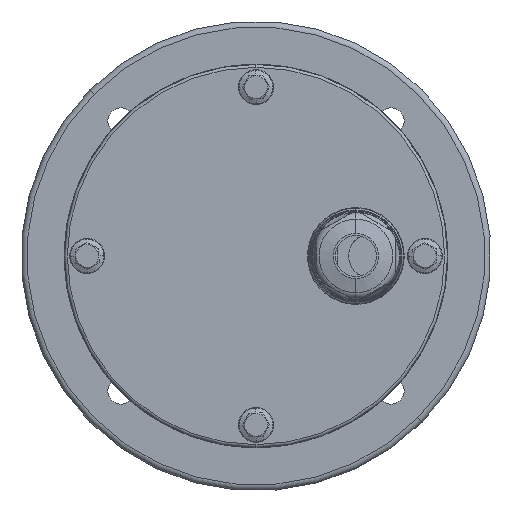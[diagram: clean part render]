
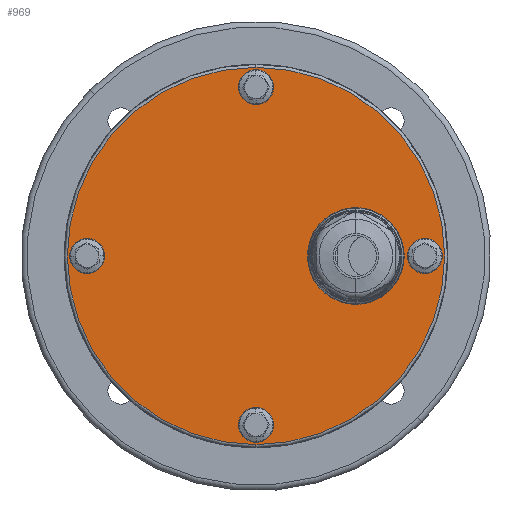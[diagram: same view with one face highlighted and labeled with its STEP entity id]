
A CAD part, left-side view. The second image highlights one B-rep face of the part: STEP entity #969.
In plain terms, the highlighted planar face has unit normal (-1, 0, 0).
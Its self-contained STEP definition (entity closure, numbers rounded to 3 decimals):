
#969=ADVANCED_FACE('',(#2261,#2262,#2263,#2264,#2265,#2266),#2267,.F.);
#2261=FACE_OUTER_BOUND('',#7372,.T.);
#2262=FACE_BOUND('',#7373,.T.);
#2263=FACE_BOUND('',#7374,.T.);
#2264=FACE_BOUND('',#7375,.T.);
#2265=FACE_BOUND('',#7376,.T.);
#2266=FACE_BOUND('',#7377,.T.);
#2267=PLANE('',#7378);
#7372=EDGE_LOOP('',(#11531,#11532));
#7373=EDGE_LOOP('',(#11533,#11534));
#7374=EDGE_LOOP('',(#11535,#11536));
#7375=EDGE_LOOP('',(#11537,#11538));
#7376=EDGE_LOOP('',(#11539,#11540));
#7377=EDGE_LOOP('',(#11541,#11542));
#7378=AXIS2_PLACEMENT_3D('',#11543,#11544,#11545);
#11531=ORIENTED_EDGE('',*,*,#13503,.T.);
#11532=ORIENTED_EDGE('',*,*,#13497,.T.);
#11533=ORIENTED_EDGE('',*,*,#13531,.F.);
#11534=ORIENTED_EDGE('',*,*,#13419,.F.);
#11535=ORIENTED_EDGE('',*,*,#13532,.F.);
#11536=ORIENTED_EDGE('',*,*,#13511,.F.);
#11537=ORIENTED_EDGE('',*,*,#13502,.F.);
#11538=ORIENTED_EDGE('',*,*,#13504,.F.);
#11539=ORIENTED_EDGE('',*,*,#13533,.F.);
#11540=ORIENTED_EDGE('',*,*,#13440,.F.);
#11541=ORIENTED_EDGE('',*,*,#13436,.T.);
#11542=ORIENTED_EDGE('',*,*,#13534,.T.);
#11543=CARTESIAN_POINT('',(-121.5,0.,0.));
#11544=DIRECTION('',(1.0,0.,0.));
#11545=DIRECTION('',(0.,1.0,0.));
#13419=EDGE_CURVE('',#15653,#15655,#15656,.T.);
#13436=EDGE_CURVE('',#15684,#15682,#15685,.T.);
#13440=EDGE_CURVE('',#15690,#15692,#15693,.T.);
#13497=EDGE_CURVE('',#15785,#15786,#15787,.T.);
#13502=EDGE_CURVE('',#15792,#15790,#15794,.T.);
#13503=EDGE_CURVE('',#15786,#15785,#15795,.T.);
#13504=EDGE_CURVE('',#15790,#15792,#15796,.T.);
#13511=EDGE_CURVE('',#15806,#15808,#15809,.T.);
#13531=EDGE_CURVE('',#15655,#15653,#15836,.T.);
#13532=EDGE_CURVE('',#15808,#15806,#15837,.T.);
#13533=EDGE_CURVE('',#15692,#15690,#15838,.T.);
#13534=EDGE_CURVE('',#15682,#15684,#15839,.T.);
#15653=VERTEX_POINT('',#22238);
#15655=VERTEX_POINT('',#22241);
#15656=CIRCLE('',#22242,4.75);
#15682=VERTEX_POINT('',#22271);
#15684=VERTEX_POINT('',#22274);
#15685=CIRCLE('',#22275,9.45);
#15690=VERTEX_POINT('',#22281);
#15692=VERTEX_POINT('',#22284);
#15693=CIRCLE('',#22285,4.75);
#15785=VERTEX_POINT('',#22395);
#15786=VERTEX_POINT('',#22396);
#15787=CIRCLE('',#22397,64.25);
#15790=VERTEX_POINT('',#22400);
#15792=VERTEX_POINT('',#22403);
#15794=CIRCLE('',#22406,4.75);
#15795=CIRCLE('',#22407,64.25);
#15796=CIRCLE('',#22408,4.75);
#15806=VERTEX_POINT('',#22420);
#15808=VERTEX_POINT('',#22423);
#15809=CIRCLE('',#22424,4.75);
#15836=CIRCLE('',#22454,4.75);
#15837=CIRCLE('',#22455,4.75);
#15838=CIRCLE('',#22456,4.75);
#15839=CIRCLE('',#22457,9.45);
#22238=CARTESIAN_POINT('',(-121.5,0.,-62.25));
#22241=CARTESIAN_POINT('',(-121.5,0.,-52.75));
#22242=AXIS2_PLACEMENT_3D('',#25053,#25054,#25055);
#22271=CARTESIAN_POINT('',(-121.5,-34.0,-9.45));
#22274=CARTESIAN_POINT('',(-121.5,-34.0,9.45));
#22275=AXIS2_PLACEMENT_3D('',#25096,#25097,#25098);
#22281=CARTESIAN_POINT('',(-121.5,57.5,-4.75));
#22284=CARTESIAN_POINT('',(-121.5,57.5,4.75));
#22285=AXIS2_PLACEMENT_3D('',#25104,#25105,#25106);
#22395=CARTESIAN_POINT('',(-121.5,0.,64.25));
#22396=CARTESIAN_POINT('',(-121.5,0.0,-64.25));
#22397=AXIS2_PLACEMENT_3D('',#25239,#25240,#25241);
#22400=CARTESIAN_POINT('',(-121.5,0.,52.75));
#22403=CARTESIAN_POINT('',(-121.5,0.,62.25));
#22406=AXIS2_PLACEMENT_3D('',#25250,#25251,#25252);
#22407=AXIS2_PLACEMENT_3D('',#25253,#25254,#25255);
#22408=AXIS2_PLACEMENT_3D('',#25256,#25257,#25258);
#22420=CARTESIAN_POINT('',(-121.5,-57.5,-4.75));
#22423=CARTESIAN_POINT('',(-121.5,-57.5,4.75));
#22424=AXIS2_PLACEMENT_3D('',#25271,#25272,#25273);
#22454=AXIS2_PLACEMENT_3D('',#25325,#25326,#25327);
#22455=AXIS2_PLACEMENT_3D('',#25328,#25329,#25330);
#22456=AXIS2_PLACEMENT_3D('',#25331,#25332,#25333);
#22457=AXIS2_PLACEMENT_3D('',#25334,#25335,#25336);
#25053=CARTESIAN_POINT('',(-121.5,0.,-57.5));
#25054=DIRECTION('',(-1.0,0.,0.));
#25055=DIRECTION('',(0.,1.0,0.));
#25096=CARTESIAN_POINT('',(-121.5,-34.0,0.));
#25097=DIRECTION('',(1.0,0.,0.0));
#25098=DIRECTION('',(0.0,0.0,-1.0));
#25104=CARTESIAN_POINT('',(-121.5,57.5,0.));
#25105=DIRECTION('',(-1.0,0.,0.0));
#25106=DIRECTION('',(0.0,0.0,1.0));
#25239=CARTESIAN_POINT('',(-121.5,0.,0.0));
#25240=DIRECTION('',(-1.0,0.,0.));
#25241=DIRECTION('',(0.,0.,-1.0));
#25250=CARTESIAN_POINT('',(-121.5,0.,57.5));
#25251=DIRECTION('',(-1.0,0.,0.));
#25252=DIRECTION('',(0.0,-1.0,0.));
#25253=CARTESIAN_POINT('',(-121.5,0.,0.0));
#25254=DIRECTION('',(-1.0,0.,0.));
#25255=DIRECTION('',(0.,0.,-1.0));
#25256=CARTESIAN_POINT('',(-121.5,0.,57.5));
#25257=DIRECTION('',(-1.0,0.,0.));
#25258=DIRECTION('',(0.0,-1.0,0.));
#25271=CARTESIAN_POINT('',(-121.5,-57.5,0.));
#25272=DIRECTION('',(-1.0,0.,-0.0));
#25273=DIRECTION('',(0.0,0.0,-1.0));
#25325=CARTESIAN_POINT('',(-121.5,0.,-57.5));
#25326=DIRECTION('',(-1.0,0.,0.));
#25327=DIRECTION('',(0.,1.0,0.));
#25328=CARTESIAN_POINT('',(-121.5,-57.5,0.));
#25329=DIRECTION('',(-1.0,0.,-0.0));
#25330=DIRECTION('',(0.0,0.0,-1.0));
#25331=CARTESIAN_POINT('',(-121.5,57.5,0.));
#25332=DIRECTION('',(-1.0,0.,0.0));
#25333=DIRECTION('',(0.0,0.0,1.0));
#25334=CARTESIAN_POINT('',(-121.5,-34.0,0.));
#25335=DIRECTION('',(1.0,0.,0.0));
#25336=DIRECTION('',(0.0,0.0,-1.0));
